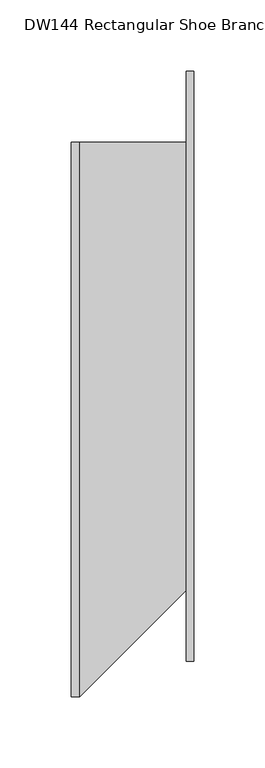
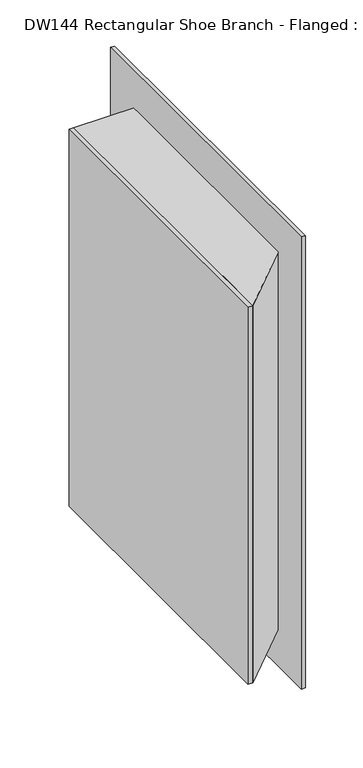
"""IFC4 building model written with IfcOpenShell, lengths in millimetres: duct fitting geometry, DW144 Rectangular Shoe Branch - Flanged : Standard."""

from ifc_helpers import new_model, si_unit, frame, origin, place, context, project, spatial, polyline, outline, extrude, source, transform, mapped, element, save


def dw144_rectangular_shoe_branch_flanged_standard_1824d1c5(model_context):
    return source(origin(), model_context, "Body", "SweptSolid", [
        extrude(outline(polyline([(80.0, 157.5), (80.0, -157.5), (75.0, -157.5), (0.0, -232.5), (0.0, 157.5), (80.0, 157.5)])), frame((0.0, 0.0, -250.0), z_axis=(0.0, 0.0, 1.0), x_axis=(1.0, 0.0, 0.0)), (0.0, 0.0, 1.0), 500.0),
        extrude(outline(polyline([(-6.096, -232.5), (-6.096, 157.5), (0.0, 157.5), (0.0, -232.5), (-6.096, -232.5)])), frame((0.0, 0.0, -250.0), z_axis=(0.0, 0.0, 1.0), x_axis=(1.0, 0.0, 0.0)), (0.0, 0.0, 1.0), 500.0),
        extrude(outline(polyline([(80.0, 207.5), (80.0, -207.5), (75.0, -207.5), (75.0, 207.5), (80.0, 207.5)])), frame((0.0, 0.0, -300.0), z_axis=(0.0, 0.0, 1.0), x_axis=(1.0, 0.0, 0.0)), (0.0, 0.0, 1.0), 600.0),
    ])


if __name__ == "__main__":
    model = new_model("IFC4")
    model_context = context("Model", 3, world=origin())
    ifc_project = project(units=[si_unit("LENGTHUNIT", "METRE", prefix="MILLI")], contexts=[model_context])
    site = spatial("IfcSite", under=ifc_project)
    building = spatial("IfcBuilding", under=site)
    placement = place(None, origin())
    dw144_rectangular_shoe_branch_flanged_standard_shape = dw144_rectangular_shoe_branch_flanged_standard_1824d1c5(model_context)
    element("IfcDuctFitting", 1, ObjectType="DW144 Rectangular Shoe Branch - Flanged : Standard", at=placement, inside=building, context=model_context, shape_type="MappedRepresentation", body=[
        mapped(dw144_rectangular_shoe_branch_flanged_standard_shape, transform((0.0, 0.0, 0.0), x_axis=(1.0, 0.0, 0.0), y_axis=(0.0, 1.0, 0.0), z_axis=(0.0, 0.0, 1.0))),
    ])
    save(model, "model.ifc")
